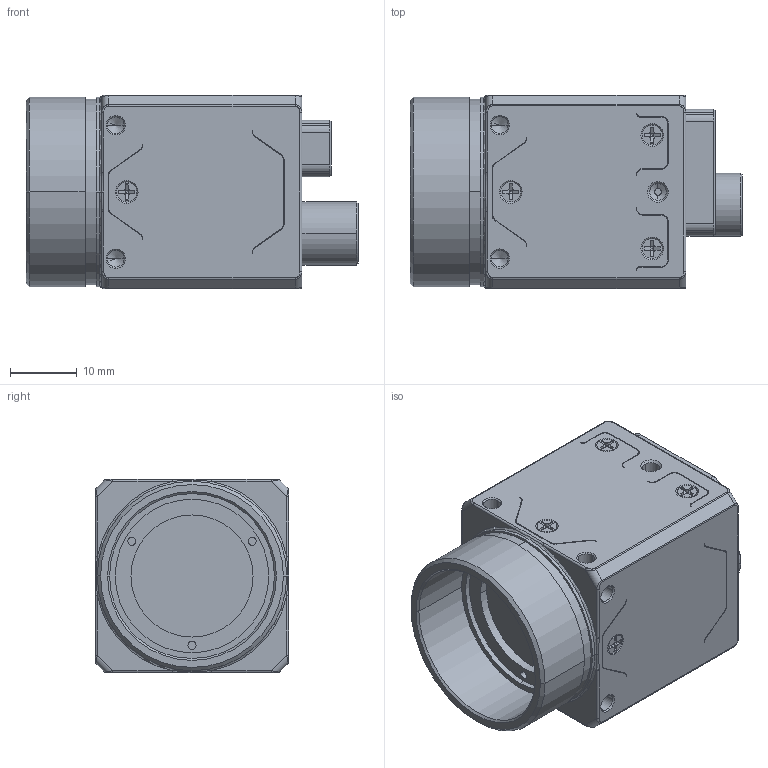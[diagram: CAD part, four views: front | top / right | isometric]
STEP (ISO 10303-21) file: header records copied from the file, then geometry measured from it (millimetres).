
FILE_DESCRIPTION((''),'2;1');
FILE_NAME('00-MV-CT050-60UM_ASM','2025-08-27T10:16:11',('sunli10'),(''),'CREO PARAMETRIC BY PTC INC, 2020044','CREO PARAMETRIC BY PTC INC, 2020044','');
FILE_SCHEMA(('CONFIG_CONTROL_DESIGN'));
Products named in the file (1): 00-MV-CT050-60UM_ASM
Bounding box: 49.76 x 29 x 29 mm (x, y, z)
Volume: 27028.6 mm3; surface area: 13620 mm2
Topology: 2 solids, 72 shells, 4635 faces, 12981 edges, 8416 vertices
Faces by surface type: plane 2708, cylinder 1471, cone 352, torus 52, bspline 50, sphere 2
Entity records: 157730 total; most frequent: CARTESIAN_POINT 37296, ORIENTED_EDGE 25854, DIRECTION 24657, EDGE_CURVE 12927, VERTEX_POINT 8414, VECTOR 8377, LINE 8377, AXIS2_PLACEMENT_3D 8140
